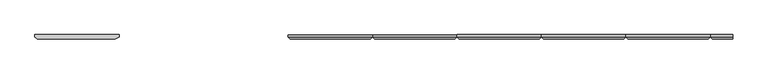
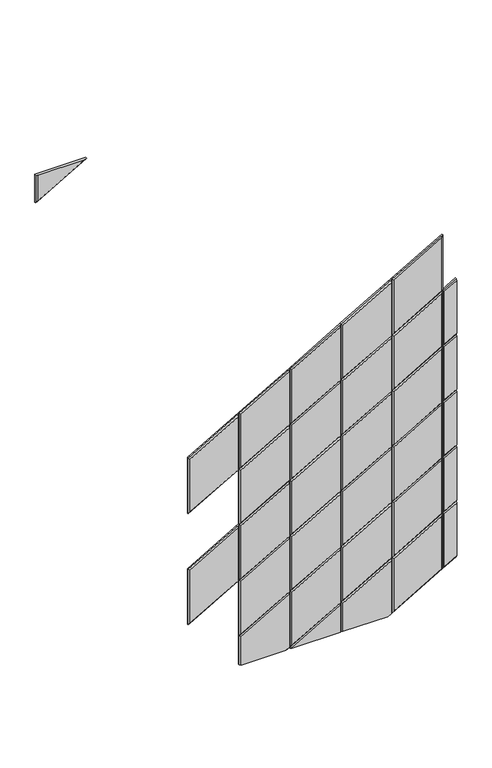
"""IFC4 building model written with IfcOpenShell, lengths in millimetres: proxy geometry, Wall_Cissu 6.3dm."""

from ifc_helpers import new_model, si_unit, origin, place, context, project, spatial, faceted_brep, source, transform, mapped, element, save


def generic_models_e96d9af0(model_context):
    return source(origin(), model_context, "Body", "Brep", [
        faceted_brep([(8762.0, 6.0, 1300.4005384), (8697.7399825, 6.0, 1263.3), (8697.7399825, 6.0, 1542.7), (8762.0, 6.0, 1579.8005384), (8697.7399825, 0.0, 1542.7), (8697.7399825, 0.0, 1263.3), (8762.0, 0.0, 1300.4005384), (8762.0, 0.0, 1579.8005384), (8762.0, -6.0, 1307.3287416), (8762.0, -6.0, 1572.8723351), (8703.7399825, -6.0, 1539.2358984), (8703.7399825, -6.0, 1273.6923048)], [[[0, 1, 2, 3]], [[4, 2, 1, 5]], [[0, 6, 5, 1]], [[7, 3, 2, 4]], [[8, 9, 10, 11]], [[4, 5, 11, 10]], [[6, 8, 11, 5]], [[9, 7, 4, 10]], [[0, 3, 7, 9, 8, 6]]]),
        faceted_brep([(8455.7724847, 6.0, 1403.0), (8697.7399825, 6.0, 1542.7), (8697.7399825, 6.0, 1263.3), (8455.7724847, 6.0, 1123.6), (8455.7724847, 0.0, 1403.0), (8455.7724847, 0.0, 1123.6), (8697.7399825, 0.0, 1263.3), (8697.7399825, 0.0, 1542.7), (8691.7399825, -6.0, 1266.7641016), (8691.7399825, -6.0, 1532.3076952), (8461.7724847, -6.0, 1399.5358984), (8461.7724847, -6.0, 1133.9923048)], [[[0, 1, 2, 3]], [[4, 0, 3, 5]], [[5, 3, 2, 6]], [[6, 2, 1, 7]], [[7, 1, 0, 4]], [[8, 9, 10, 11]], [[4, 5, 11, 10]], [[5, 6, 8, 11]], [[6, 7, 9, 8]], [[7, 4, 10, 9]]]),
        faceted_brep([(8213.8049869, 6.0, 1263.3), (8455.7724847, 6.0, 1403.0), (8455.7724847, 6.0, 1123.6), (8213.8049869, 6.0, 983.9), (8213.8049869, 0.0, 1263.3), (8213.8049869, 0.0, 983.9), (8455.7724847, 0.0, 1123.6), (8455.7724847, 0.0, 1403.0), (8449.7724847, -6.0, 1127.0641016), (8449.7724847, -6.0, 1392.6076952), (8219.8049869, -6.0, 1259.8358984), (8219.8049869, -6.0, 994.2923048)], [[[0, 1, 2, 3]], [[4, 0, 3, 5]], [[5, 3, 2, 6]], [[6, 2, 1, 7]], [[7, 1, 0, 4]], [[8, 9, 10, 11]], [[4, 5, 11, 10]], [[5, 6, 8, 11]], [[6, 7, 9, 8]], [[7, 4, 10, 9]]]),
        faceted_brep([(7971.8374891, 6.0, 1123.6), (8213.8049869, 6.0, 1263.3), (8213.8049869, 6.0, 983.9), (7971.8374891, 6.0, 844.2), (7971.8374891, 0.0, 1123.6), (7971.8374891, 0.0, 844.2), (8213.8049869, 0.0, 983.9), (8213.8049869, 0.0, 1263.3), (8207.8049869, -6.0, 987.3641016), (8207.8049869, -6.0, 1252.9076952), (7977.8374891, -6.0, 1120.1358984), (7977.8374891, -6.0, 854.5923048)], [[[0, 1, 2, 3]], [[4, 0, 3, 5]], [[5, 3, 2, 6]], [[6, 2, 1, 7]], [[7, 1, 0, 4]], [[8, 9, 10, 11]], [[4, 5, 11, 10]], [[5, 6, 8, 11]], [[6, 7, 9, 8]], [[7, 4, 10, 9]]]),
        faceted_brep([(7729.8699913, 6.0, 983.9), (7971.8374891, 6.0, 1123.6), (7971.8374891, 6.0, 844.2), (7729.8699913, 6.0, 704.5), (7729.8699913, 0.0, 983.9), (7729.8699913, 0.0, 704.5), (7971.8374891, 0.0, 844.2), (7971.8374891, 0.0, 1123.6), (7965.8374891, -6.0, 847.6641016), (7965.8374891, -6.0, 1113.2076952), (7735.8699913, -6.0, 980.4358984), (7735.8699913, -6.0, 714.8923048)], [[[0, 1, 2, 3]], [[4, 0, 3, 5]], [[5, 3, 2, 6]], [[6, 2, 1, 7]], [[7, 1, 0, 4]], [[8, 9, 10, 11]], [[4, 5, 11, 10]], [[5, 6, 8, 11]], [[6, 7, 9, 8]], [[7, 4, 10, 9]]]),
        faceted_brep([(7487.9024935, 6.0, 1123.6), (7729.8699913, 6.0, 1263.3), (7729.8699913, 6.0, 983.9), (7487.9024935, 6.0, 844.2), (7487.9024935, 0.0, 1123.6), (7487.9024935, 0.0, 844.2), (7729.8699913, 0.0, 983.9), (7729.8699913, 0.0, 1263.3), (7723.8699913, -6.0, 987.3641016), (7723.8699913, -6.0, 1252.9076952), (7493.9024935, -6.0, 1120.1358984), (7493.9024935, -6.0, 854.5923048)], [[[0, 1, 2, 3]], [[4, 0, 3, 5]], [[5, 3, 2, 6]], [[6, 2, 1, 7]], [[7, 1, 0, 4]], [[8, 9, 10, 11]], [[4, 5, 11, 10]], [[5, 6, 8, 11]], [[6, 7, 9, 8]], [[7, 4, 10, 9]]]),
        faceted_brep([(8455.7724847, 6.0, 1682.4), (8697.7399825, 6.0, 1822.1), (8697.7399825, 6.0, 1542.7), (8455.7724847, 6.0, 1403.0), (8455.7724847, 0.0, 1682.4), (8455.7724847, 0.0, 1403.0), (8697.7399825, 0.0, 1542.7), (8697.7399825, 0.0, 1822.1), (8691.7399825, -6.0, 1546.1641016), (8691.7399825, -6.0, 1811.7076952), (8461.7724847, -6.0, 1678.9358984), (8461.7724847, -6.0, 1413.3923048)], [[[0, 1, 2, 3]], [[4, 0, 3, 5]], [[5, 3, 2, 6]], [[6, 2, 1, 7]], [[7, 1, 0, 4]], [[8, 9, 10, 11]], [[4, 5, 11, 10]], [[5, 6, 8, 11]], [[6, 7, 9, 8]], [[7, 4, 10, 9]]]),
        faceted_brep([(8213.8049869, 6.0, 1542.7), (8455.7724847, 6.0, 1682.4), (8455.7724847, 6.0, 1403.0), (8213.8049869, 6.0, 1263.3), (8213.8049869, 0.0, 1542.7), (8213.8049869, 0.0, 1263.3), (8455.7724847, 0.0, 1403.0), (8455.7724847, 0.0, 1682.4), (8449.7724847, -6.0, 1406.4641016), (8449.7724847, -6.0, 1672.0076952), (8219.8049869, -6.0, 1539.2358984), (8219.8049869, -6.0, 1273.6923048)], [[[0, 1, 2, 3]], [[4, 0, 3, 5]], [[5, 3, 2, 6]], [[6, 2, 1, 7]], [[7, 1, 0, 4]], [[8, 9, 10, 11]], [[4, 5, 11, 10]], [[5, 6, 8, 11]], [[6, 7, 9, 8]], [[7, 4, 10, 9]]]),
        faceted_brep([(7971.8374891, 6.0, 1403.0), (8213.8049869, 6.0, 1542.7), (8213.8049869, 6.0, 1263.3), (7971.8374891, 6.0, 1123.6), (7971.8374891, 0.0, 1403.0), (7971.8374891, 0.0, 1123.6), (8213.8049869, 0.0, 1263.3), (8213.8049869, 0.0, 1542.7), (8207.8049869, -6.0, 1266.7641016), (8207.8049869, -6.0, 1532.3076952), (7977.8374891, -6.0, 1399.5358984), (7977.8374891, -6.0, 1133.9923048)], [[[0, 1, 2, 3]], [[4, 0, 3, 5]], [[5, 3, 2, 6]], [[6, 2, 1, 7]], [[7, 1, 0, 4]], [[8, 9, 10, 11]], [[4, 5, 11, 10]], [[5, 6, 8, 11]], [[6, 7, 9, 8]], [[7, 4, 10, 9]]]),
        faceted_brep([(7729.8699913, 6.0, 1263.3), (7971.8374891, 6.0, 1403.0), (7971.8374891, 6.0, 1123.6), (7729.8699913, 6.0, 983.9), (7729.8699913, 0.0, 1263.3), (7729.8699913, 0.0, 983.9), (7971.8374891, 0.0, 1123.6), (7971.8374891, 0.0, 1403.0), (7965.8374891, -6.0, 1127.0641016), (7965.8374891, -6.0, 1392.6076952), (7735.8699913, -6.0, 1259.8358984), (7735.8699913, -6.0, 994.2923048)], [[[0, 1, 2, 3]], [[4, 0, 3, 5]], [[5, 3, 2, 6]], [[6, 2, 1, 7]], [[7, 1, 0, 4]], [[8, 9, 10, 11]], [[4, 5, 11, 10]], [[5, 6, 8, 11]], [[6, 7, 9, 8]], [[7, 4, 10, 9]]]),
        faceted_brep([(8762.0, 6.0, 741.6005384), (8697.7399825, 6.0, 704.5), (8697.7399825, 6.0, 983.9), (8762.0, 6.0, 1021.0005384), (8697.7399825, 0.0, 983.9), (8697.7399825, 0.0, 704.5), (8762.0, 0.0, 741.6005384), (8762.0, 0.0, 1021.0005384), (8762.0, -6.0, 748.5287416), (8762.0, -6.0, 1014.0723351), (8703.7399825, -6.0, 980.4358984), (8703.7399825, -6.0, 714.8923048)], [[[0, 1, 2, 3]], [[4, 2, 1, 5]], [[0, 6, 5, 1]], [[7, 3, 2, 4]], [[8, 9, 10, 11]], [[4, 5, 11, 10]], [[6, 8, 11, 5]], [[9, 7, 4, 10]], [[0, 3, 7, 9, 8, 6]]]),
        faceted_brep([(8455.7724847, 6.0, 844.2), (8697.7399825, 6.0, 983.9), (8697.7399825, 6.0, 704.5), (8455.7724847, 6.0, 564.8), (8455.7724847, 0.0, 844.2), (8455.7724847, 0.0, 564.8), (8697.7399825, 0.0, 704.5), (8697.7399825, 0.0, 983.9), (8691.7399825, -6.0, 707.9641016), (8691.7399825, -6.0, 973.5076952), (8461.7724847, -6.0, 840.7358984), (8461.7724847, -6.0, 575.1923048)], [[[0, 1, 2, 3]], [[4, 0, 3, 5]], [[5, 3, 2, 6]], [[6, 2, 1, 7]], [[7, 1, 0, 4]], [[8, 9, 10, 11]], [[4, 5, 11, 10]], [[5, 6, 8, 11]], [[6, 7, 9, 8]], [[7, 4, 10, 9]]]),
        faceted_brep([(8213.8049869, 6.0, 704.5), (8455.7724847, 6.0, 844.2), (8455.7724847, 6.0, 564.8), (8213.8049869, 6.0, 425.1), (8213.8049869, 0.0, 704.5), (8213.8049869, 0.0, 425.1), (8455.7724847, 0.0, 564.8), (8455.7724847, 0.0, 844.2), (8449.7724847, -6.0, 568.2641016), (8449.7724847, -6.0, 833.8076952), (8219.8049869, -6.0, 701.0358984), (8219.8049869, -6.0, 435.4923048)], [[[0, 1, 2, 3]], [[4, 0, 3, 5]], [[5, 3, 2, 6]], [[6, 2, 1, 7]], [[7, 1, 0, 4]], [[8, 9, 10, 11]], [[4, 5, 11, 10]], [[5, 6, 8, 11]], [[6, 7, 9, 8]], [[7, 4, 10, 9]]]),
        faceted_brep([(7971.8374891, 6.0, 564.8), (8213.8049869, 6.0, 704.5), (8213.8049869, 6.0, 425.1), (7971.8374891, 6.0, 285.4), (7971.8374891, 0.0, 564.8), (7971.8374891, 0.0, 285.4), (8213.8049869, 0.0, 425.1), (8213.8049869, 0.0, 704.5), (8207.8049869, -6.0, 428.5641016), (8207.8049869, -6.0, 694.1076952), (7977.8374891, -6.0, 561.3358984), (7977.8374891, -6.0, 295.7923048)], [[[0, 1, 2, 3]], [[4, 0, 3, 5]], [[5, 3, 2, 6]], [[6, 2, 1, 7]], [[7, 1, 0, 4]], [[8, 9, 10, 11]], [[4, 5, 11, 10]], [[5, 6, 8, 11]], [[6, 7, 9, 8]], [[7, 4, 10, 9]]]),
        faceted_brep([(7729.8699913, 6.0, 425.1), (7971.8374891, 6.0, 564.8), (7971.8374891, 6.0, 285.4), (7729.8699913, 6.0, 145.7), (7729.8699913, 0.0, 425.1), (7729.8699913, 0.0, 145.7), (7971.8374891, 0.0, 285.4), (7971.8374891, 0.0, 564.8), (7965.8374891, -6.0, 288.8641016), (7965.8374891, -6.0, 554.4076952), (7735.8699913, -6.0, 421.6358984), (7735.8699913, -6.0, 156.0923048)], [[[0, 1, 2, 3]], [[4, 0, 3, 5]], [[5, 3, 2, 6]], [[6, 2, 1, 7]], [[7, 1, 0, 4]], [[8, 9, 10, 11]], [[4, 5, 11, 10]], [[5, 6, 8, 11]], [[6, 7, 9, 8]], [[7, 4, 10, 9]]]),
        faceted_brep([(7487.9024935, 6.0, 564.8), (7729.8699913, 6.0, 704.5), (7729.8699913, 6.0, 425.1), (7487.9024935, 6.0, 285.4), (7487.9024935, 0.0, 564.8), (7487.9024935, 0.0, 285.4), (7729.8699913, 0.0, 425.1), (7729.8699913, 0.0, 704.5), (7723.8699913, -6.0, 428.5641016), (7723.8699913, -6.0, 694.1076952), (7493.9024935, -6.0, 561.3358984), (7493.9024935, -6.0, 295.7923048)], [[[0, 1, 2, 3]], [[4, 0, 3, 5]], [[5, 3, 2, 6]], [[6, 2, 1, 7]], [[7, 1, 0, 4]], [[8, 9, 10, 11]], [[4, 5, 11, 10]], [[5, 6, 8, 11]], [[6, 7, 9, 8]], [[7, 4, 10, 9]]]),
        faceted_brep([(8762.0, 6.0, 1021.0005384), (8697.7399825, 6.0, 983.9), (8697.7399825, 6.0, 1263.3), (8762.0, 6.0, 1300.4005384), (8697.7399825, 0.0, 1263.3), (8697.7399825, 0.0, 983.9), (8762.0, 0.0, 1021.0005384), (8762.0, 0.0, 1300.4005384), (8762.0, -6.0, 1027.9287416), (8762.0, -6.0, 1293.4723351), (8703.7399825, -6.0, 1259.8358984), (8703.7399825, -6.0, 994.2923048)], [[[0, 1, 2, 3]], [[4, 2, 1, 5]], [[0, 6, 5, 1]], [[7, 3, 2, 4]], [[8, 9, 10, 11]], [[4, 5, 11, 10]], [[6, 8, 11, 5]], [[9, 7, 4, 10]], [[0, 3, 7, 9, 8, 6]]]),
        faceted_brep([(8455.7724847, 6.0, 1123.6), (8697.7399825, 6.0, 1263.3), (8697.7399825, 6.0, 983.9), (8455.7724847, 6.0, 844.2), (8455.7724847, 0.0, 1123.6), (8455.7724847, 0.0, 844.2), (8697.7399825, 0.0, 983.9), (8697.7399825, 0.0, 1263.3), (8691.7399825, -6.0, 987.3641016), (8691.7399825, -6.0, 1252.9076952), (8461.7724847, -6.0, 1120.1358984), (8461.7724847, -6.0, 854.5923048)], [[[0, 1, 2, 3]], [[4, 0, 3, 5]], [[5, 3, 2, 6]], [[6, 2, 1, 7]], [[7, 1, 0, 4]], [[8, 9, 10, 11]], [[4, 5, 11, 10]], [[5, 6, 8, 11]], [[6, 7, 9, 8]], [[7, 4, 10, 9]]]),
        faceted_brep([(8213.8049869, 6.0, 983.9), (8455.7724847, 6.0, 1123.6), (8455.7724847, 6.0, 844.2), (8213.8049869, 6.0, 704.5), (8213.8049869, 0.0, 983.9), (8213.8049869, 0.0, 704.5), (8455.7724847, 0.0, 844.2), (8455.7724847, 0.0, 1123.6), (8449.7724847, -6.0, 847.6641016), (8449.7724847, -6.0, 1113.2076952), (8219.8049869, -6.0, 980.4358984), (8219.8049869, -6.0, 714.8923048)], [[[0, 1, 2, 3]], [[4, 0, 3, 5]], [[5, 3, 2, 6]], [[6, 2, 1, 7]], [[7, 1, 0, 4]], [[8, 9, 10, 11]], [[4, 5, 11, 10]], [[5, 6, 8, 11]], [[6, 7, 9, 8]], [[7, 4, 10, 9]]]),
        faceted_brep([(7971.8374891, 6.0, 844.2), (8213.8049869, 6.0, 983.9), (8213.8049869, 6.0, 704.5), (7971.8374891, 6.0, 564.8), (7971.8374891, 0.0, 844.2), (7971.8374891, 0.0, 564.8), (8213.8049869, 0.0, 704.5), (8213.8049869, 0.0, 983.9), (8207.8049869, -6.0, 707.9641016), (8207.8049869, -6.0, 973.5076952), (7977.8374891, -6.0, 840.7358984), (7977.8374891, -6.0, 575.1923048)], [[[0, 1, 2, 3]], [[4, 0, 3, 5]], [[5, 3, 2, 6]], [[6, 2, 1, 7]], [[7, 1, 0, 4]], [[8, 9, 10, 11]], [[4, 5, 11, 10]], [[5, 6, 8, 11]], [[6, 7, 9, 8]], [[7, 4, 10, 9]]]),
        faceted_brep([(7729.8699913, 6.0, 704.5), (7971.8374891, 6.0, 844.2), (7971.8374891, 6.0, 564.8), (7729.8699913, 6.0, 425.1), (7729.8699913, 0.0, 704.5), (7729.8699913, 0.0, 425.1), (7971.8374891, 0.0, 564.8), (7971.8374891, 0.0, 844.2), (7965.8374891, -6.0, 568.2641016), (7965.8374891, -6.0, 833.8076952), (7735.8699913, -6.0, 701.0358984), (7735.8699913, -6.0, 435.4923048)], [[[0, 1, 2, 3]], [[4, 0, 3, 5]], [[5, 3, 2, 6]], [[6, 2, 1, 7]], [[7, 1, 0, 4]], [[8, 9, 10, 11]], [[4, 5, 11, 10]], [[5, 6, 8, 11]], [[6, 7, 9, 8]], [[7, 4, 10, 9]]]),
        faceted_brep([(8762.0, 6.0, 182.8005384), (8697.7399825, 6.0, 145.7), (8697.7399825, 6.0, 425.1), (8762.0, 6.0, 462.2005384), (8697.7399825, 0.0, 425.1), (8697.7399825, 0.0, 145.7), (8762.0, 0.0, 182.8005384), (8762.0, 0.0, 462.2005384), (8762.0, -6.0, 189.7287416), (8762.0, -6.0, 455.2723351), (8703.7399825, -6.0, 421.6358984), (8703.7399825, -6.0, 156.0923048)], [[[0, 1, 2, 3]], [[4, 2, 1, 5]], [[0, 6, 5, 1]], [[7, 3, 2, 4]], [[8, 9, 10, 11]], [[4, 5, 11, 10]], [[6, 8, 11, 5]], [[9, 7, 4, 10]], [[0, 3, 7, 9, 8, 6]]]),
        faceted_brep([(8455.7724847, 6.0, 285.4), (8697.7399825, 6.0, 425.1), (8697.7399825, 6.0, 145.7), (8455.7724847, 6.0, 6.0), (8455.7724847, 0.0, 285.4), (8455.7724847, 0.0, 6.0), (8697.7399825, 0.0, 145.7), (8697.7399825, 0.0, 425.1), (8691.7399825, -6.0, 149.1641016), (8691.7399825, -6.0, 414.7076952), (8461.7724847, -6.0, 281.9358984), (8461.7724847, -6.0, 16.3923048)], [[[0, 1, 2, 3]], [[4, 0, 3, 5]], [[5, 3, 2, 6]], [[6, 2, 1, 7]], [[7, 1, 0, 4]], [[8, 9, 10, 11]], [[4, 5, 11, 10]], [[5, 6, 8, 11]], [[6, 7, 9, 8]], [[7, 4, 10, 9]]]),
        faceted_brep([(8213.8049869, 6.0, 0.0), (8213.8049869, 6.0, 145.7), (8455.7724847, 6.0, 285.4), (8455.7724847, 6.0, 6.0), (8445.3801799, 6.0, 0.0), (8213.8049869, 0.0, 0.0), (8213.8049869, 0.0, 145.7), (8445.3801799, 0.0, 0.0), (8455.7724847, 0.0, 6.0), (8455.7724847, 0.0, 285.4), (8219.8049869, -6.0, 0.0), (8433.3801799, -6.0, 0.0), (8449.7724847, -6.0, 9.4641016), (8449.7724847, -6.0, 275.0076952), (8219.8049869, -6.0, 142.2358984)], [[[0, 1, 2, 3, 4]], [[0, 5, 6, 1]], [[7, 4, 3, 8]], [[8, 3, 2, 9]], [[9, 2, 1, 6]], [[10, 11, 12, 13, 14]], [[5, 10, 14, 6]], [[11, 7, 8, 12]], [[8, 9, 13, 12]], [[9, 6, 14, 13]], [[0, 4, 7, 11, 10, 5]]]),
        faceted_brep([(7971.8374891, 6.0, 0.0), (7971.8374891, 6.0, 6.0), (8213.8049869, 6.0, 145.7), (8213.8049869, 6.0, 0.0), (7971.8374891, 0.0, 0.0), (7971.8374891, 0.0, 6.0), (8213.8049869, 0.0, 0.0), (8213.8049869, 0.0, 145.7), (7977.8374891, -6.0, 0.0), (8207.8049869, -6.0, 0.0), (8207.8049869, -6.0, 135.3076952), (7977.8374891, -6.0, 2.5358984)], [[[0, 1, 2, 3]], [[0, 4, 5, 1]], [[6, 3, 2, 7]], [[7, 2, 1, 5]], [[8, 9, 10, 11]], [[4, 8, 11, 5]], [[9, 6, 7, 10]], [[7, 5, 11, 10]], [[0, 3, 6, 9, 8, 4]]]),
        faceted_brep([(8762.0, 6.0, 462.2005384), (8697.7399825, 6.0, 425.1), (8697.7399825, 6.0, 704.5), (8762.0, 6.0, 741.6005384), (8697.7399825, 0.0, 704.5), (8697.7399825, 0.0, 425.1), (8762.0, 0.0, 462.2005384), (8762.0, 0.0, 741.6005384), (8762.0, -6.0, 469.1287416), (8762.0, -6.0, 734.6723351), (8703.7399825, -6.0, 701.0358984), (8703.7399825, -6.0, 435.4923048)], [[[0, 1, 2, 3]], [[4, 2, 1, 5]], [[0, 6, 5, 1]], [[7, 3, 2, 4]], [[8, 9, 10, 11]], [[4, 5, 11, 10]], [[6, 8, 11, 5]], [[9, 7, 4, 10]], [[0, 3, 7, 9, 8, 6]]]),
        faceted_brep([(8455.7724847, 6.0, 564.8), (8697.7399825, 6.0, 704.5), (8697.7399825, 6.0, 425.1), (8455.7724847, 6.0, 285.4), (8455.7724847, 0.0, 564.8), (8455.7724847, 0.0, 285.4), (8697.7399825, 0.0, 425.1), (8697.7399825, 0.0, 704.5), (8691.7399825, -6.0, 428.5641016), (8691.7399825, -6.0, 694.1076952), (8461.7724847, -6.0, 561.3358984), (8461.7724847, -6.0, 295.7923048)], [[[0, 1, 2, 3]], [[4, 0, 3, 5]], [[5, 3, 2, 6]], [[6, 2, 1, 7]], [[7, 1, 0, 4]], [[8, 9, 10, 11]], [[4, 5, 11, 10]], [[5, 6, 8, 11]], [[6, 7, 9, 8]], [[7, 4, 10, 9]]]),
        faceted_brep([(8213.8049869, 6.0, 425.1), (8455.7724847, 6.0, 564.8), (8455.7724847, 6.0, 285.4), (8213.8049869, 6.0, 145.7), (8213.8049869, 0.0, 425.1), (8213.8049869, 0.0, 145.7), (8455.7724847, 0.0, 285.4), (8455.7724847, 0.0, 564.8), (8449.7724847, -6.0, 288.8641016), (8449.7724847, -6.0, 554.4076952), (8219.8049869, -6.0, 421.6358984), (8219.8049869, -6.0, 156.0923048)], [[[0, 1, 2, 3]], [[4, 0, 3, 5]], [[5, 3, 2, 6]], [[6, 2, 1, 7]], [[7, 1, 0, 4]], [[8, 9, 10, 11]], [[4, 5, 11, 10]], [[5, 6, 8, 11]], [[6, 7, 9, 8]], [[7, 4, 10, 9]]]),
        faceted_brep([(7971.8374891, 6.0, 285.4), (8213.8049869, 6.0, 425.1), (8213.8049869, 6.0, 145.7), (7971.8374891, 6.0, 6.0), (7971.8374891, 0.0, 285.4), (7971.8374891, 0.0, 6.0), (8213.8049869, 0.0, 145.7), (8213.8049869, 0.0, 425.1), (8207.8049869, -6.0, 149.1641016), (8207.8049869, -6.0, 414.7076952), (7977.8374891, -6.0, 281.9358984), (7977.8374891, -6.0, 16.3923048)], [[[0, 1, 2, 3]], [[4, 0, 3, 5]], [[5, 3, 2, 6]], [[6, 2, 1, 7]], [[7, 1, 0, 4]], [[8, 9, 10, 11]], [[4, 5, 11, 10]], [[5, 6, 8, 11]], [[6, 7, 9, 8]], [[7, 4, 10, 9]]]),
        faceted_brep([(7729.8699913, 6.0, 0.0), (7729.8699913, 6.0, 145.7), (7971.8374891, 6.0, 285.4), (7971.8374891, 6.0, 6.0), (7961.4451842, 6.0, 0.0), (7729.8699913, 0.0, 0.0), (7729.8699913, 0.0, 145.7), (7961.4451842, 0.0, 0.0), (7971.8374891, 0.0, 6.0), (7971.8374891, 0.0, 285.4), (7735.8699913, -6.0, 0.0), (7949.4451842, -6.0, 0.0), (7965.8374891, -6.0, 9.4641016), (7965.8374891, -6.0, 275.0076952), (7735.8699913, -6.0, 142.2358984)], [[[0, 1, 2, 3, 4]], [[0, 5, 6, 1]], [[7, 4, 3, 8]], [[8, 3, 2, 9]], [[9, 2, 1, 6]], [[10, 11, 12, 13, 14]], [[5, 10, 14, 6]], [[11, 7, 8, 12]], [[8, 9, 13, 12]], [[9, 6, 14, 13]], [[0, 4, 7, 11, 10, 5]]]),
        faceted_brep([(6762.0, 0.0, 2660.3), (6762.0, 6.0, 2660.3), (7003.9674978, 6.0, 2800.0), (7003.9674978, 0.0, 2800.0), (6768.0, -6.0, 2800.0), (6991.9674978, -6.0, 2800.0), (6762.0, 6.0, 2800.0), (6762.0, 0.0, 2800.0), (6768.0, -6.0, 2670.6923048)], [[[0, 1, 2, 3]], [[4, 5, 3, 2, 6, 7]], [[6, 2, 1]], [[4, 8, 5]], [[7, 0, 8, 4]], [[5, 8, 0, 3]], [[6, 1, 0, 7]]]),
    ])


if __name__ == "__main__":
    model = new_model("IFC4")
    model_context = context("Model", 3, world=origin())
    ifc_project = project(units=[si_unit("LENGTHUNIT", "METRE", prefix="MILLI")], contexts=[model_context])
    site = spatial("IfcSite", under=ifc_project)
    building = spatial("IfcBuilding", under=site)
    placement = place(None, origin())
    generic_models_shape = generic_models_e96d9af0(model_context)
    element("IfcBuildingElementProxy", 1, Name="Wall_Cissu 6.3dm", ObjectType="Wall_Cissu 6.3dm", at=placement, inside=building, context=model_context, shape_type="MappedRepresentation", body=[
        mapped(generic_models_shape, transform((0.0, 0.0, 0.0), x_axis=(1.0, 0.0, 0.0), y_axis=(0.0, 1.0, 0.0), z_axis=(0.0, 0.0, 1.0))),
    ])
    save(model, "model.ifc")
